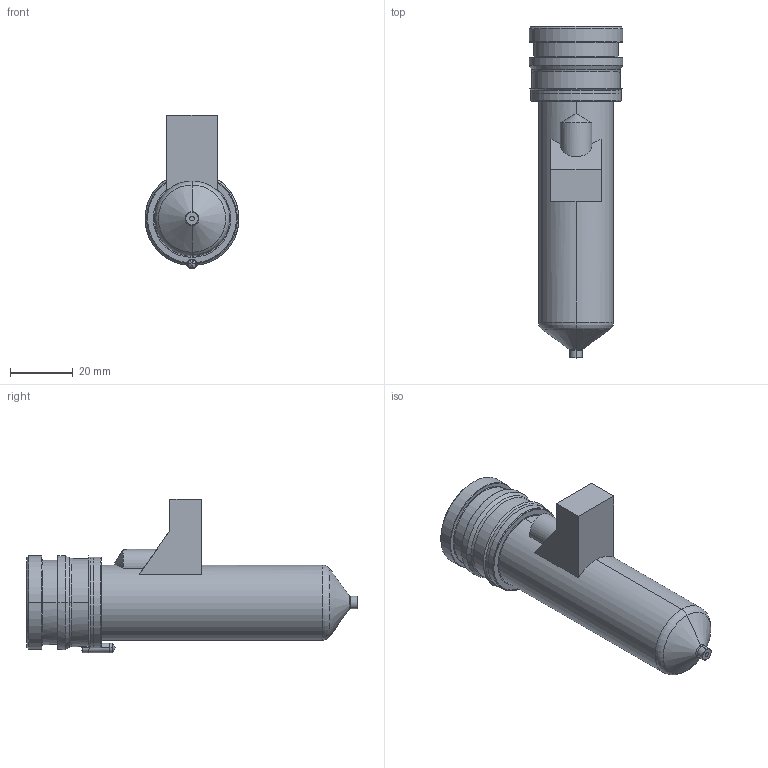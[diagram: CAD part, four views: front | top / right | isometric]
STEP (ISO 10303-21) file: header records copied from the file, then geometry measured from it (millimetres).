
FILE_DESCRIPTION((''),'2;1');
FILE_NAME('MPN-10-29-VP4-086-M','2026-02-05T12:58:36',('UPTIO'),('Thermoplay S.p.A.'),'CREO PARAMETRIC BY PTC INC, 2023494','CREO PARAMETRIC BY PTC INC, 2023494','');
FILE_SCHEMA(('CONFIG_CONTROL_DESIGN','SHAPE_APPEARANCE_LAYERS_GROUPS'));
Length unit declared in the file: millimetre
Products named in the file (1): MPN-10-29-VP4-086-M
Bounding box: 30 x 106.1 x 49 mm (x, y, z)
Volume: 34114.7 mm3; surface area: 35212.1 mm2
Topology: 3 solids, 5 shells, 573 faces, 1479 edges, 911 vertices
Faces by surface type: cylinder 177, plane 159, bspline 92, torus 69, cone 66, sphere 6, extrusion 4
Entity records: 29368 total; most frequent: CARTESIAN_POINT 12962, ORIENTED_EDGE 2944, DIRECTION 2627, EDGE_CURVE 1472, AXIS2_PLACEMENT_3D 1039, VERTEX_POINT 911, EDGE_LOOP 601, FACE_OUTER_BOUND 573
